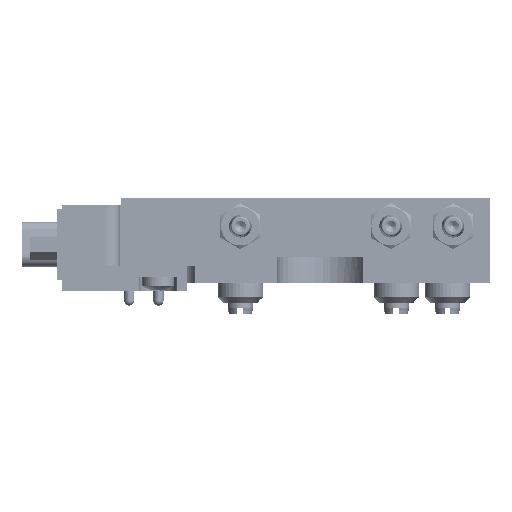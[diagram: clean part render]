
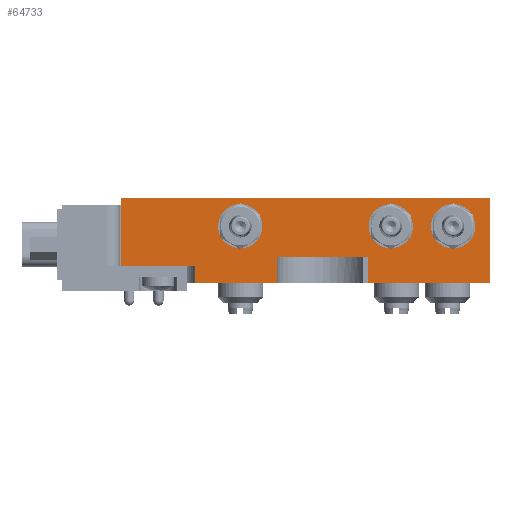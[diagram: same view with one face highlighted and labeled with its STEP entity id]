
A CAD part, left-side view. The second image highlights one B-rep face of the part: STEP entity #64733.
In plain terms, the highlighted planar face has unit normal (-1, 0, 0).
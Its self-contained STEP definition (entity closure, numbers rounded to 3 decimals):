
#119 = CARTESIAN_POINT ( 'NONE',  ( -46., -34.735, -7.1 ) ) ;
#330 = CARTESIAN_POINT ( 'NONE',  ( -46., -19.729, -15. ) ) ;
#677 = CIRCLE ( 'NONE', #29629, 2.1 ) ;
#839 = CARTESIAN_POINT ( 'NONE',  ( -46., -41.235, -15. ) ) ;
#1098 = VERTEX_POINT ( 'NONE', #63532 ) ;
#1657 = DIRECTION ( 'NONE',  ( 0., 0., 1. ) ) ;
#2719 = DIRECTION ( 'NONE',  ( 0., 1., 0. ) ) ;
#2922 = LINE ( 'NONE', #90260, #68820 ) ;
#4999 = VECTOR ( 'NONE', #2719, 1000. ) ;
#6018 = VERTEX_POINT ( 'NONE', #119 ) ;
#6062 = DIRECTION ( 'NONE',  ( 0., 0., -1. ) ) ;
#8425 = CARTESIAN_POINT ( 'NONE',  ( -46., 10.785, -12. ) ) ;
#8809 = LINE ( 'NONE', #69656, #90946 ) ;
#9114 = FACE_BOUND ( 'NONE', #94799, .T. ) ;
#9145 = DIRECTION ( 'NONE',  ( -1., 0., 0. ) ) ;
#9540 = VERTEX_POINT ( 'NONE', #8425 ) ;
#10721 = CARTESIAN_POINT ( 'NONE',  ( -46., -41.235, -10.37 ) ) ;
#11480 = DIRECTION ( 'NONE',  ( -1., 0., 0. ) ) ;
#13123 = CARTESIAN_POINT ( 'NONE',  ( -46., 2.765, -5. ) ) ;
#14007 = CARTESIAN_POINT ( 'NONE',  ( -46., -19.729, -15. ) ) ;
#16198 = EDGE_CURVE ( 'NONE', #44380, #1098, #38043, .T. ) ;
#16655 = ORIENTED_EDGE ( 'NONE', *, *, #26091, .F. ) ;
#17382 = ORIENTED_EDGE ( 'NONE', *, *, #71634, .F. ) ;
#18364 = CIRCLE ( 'NONE', #72899, 2.1 ) ;
#21140 = DIRECTION ( 'NONE',  ( 0., 0., -1. ) ) ;
#22008 = CARTESIAN_POINT ( 'NONE',  ( -46., -23.735, -5. ) ) ;
#23550 = VECTOR ( 'NONE', #88086, 1000. ) ;
#24255 = VERTEX_POINT ( 'NONE', #73832 ) ;
#24338 = DIRECTION ( 'NONE',  ( 0., 0., -1. ) ) ;
#24632 = DIRECTION ( 'NONE',  ( -1., 0., 0. ) ) ;
#25311 = CARTESIAN_POINT ( 'NONE',  ( -46., -41.235, -15. ) ) ;
#25716 = CIRCLE ( 'NONE', #51480, 2.1 ) ;
#26091 = EDGE_CURVE ( 'NONE', #56395, #72390, #67572, .T. ) ;
#27776 = EDGE_LOOP ( 'NONE', ( #98796, #52833 ) ) ;
#28301 = AXIS2_PLACEMENT_3D ( 'NONE', #39396, #95158, #47398 ) ;
#28669 = LINE ( 'NONE', #10721, #4999 ) ;
#28954 = VECTOR ( 'NONE', #52850, 1000. ) ;
#29001 = CARTESIAN_POINT ( 'NONE',  ( -46., -23.735, -7.1 ) ) ;
#29050 = LINE ( 'NONE', #25311, #66303 ) ;
#29349 = DIRECTION ( 'NONE',  ( 1., 0., 0. ) ) ;
#29629 = AXIS2_PLACEMENT_3D ( 'NONE', #13123, #68708, #21140 ) ;
#29982 = DIRECTION ( 'NONE',  ( 0., 0., -1. ) ) ;
#32232 = CARTESIAN_POINT ( 'NONE',  ( -46., 23.765, -12. ) ) ;
#32468 = ORIENTED_EDGE ( 'NONE', *, *, #80037, .F. ) ;
#33264 = LINE ( 'NONE', #330, #54332 ) ;
#33681 = ORIENTED_EDGE ( 'NONE', *, *, #61820, .F. ) ;
#34455 = CARTESIAN_POINT ( 'NONE',  ( -46., -3.729, -15. ) ) ;
#34577 = CIRCLE ( 'NONE', #84951, 2.1 ) ;
#34827 = ORIENTED_EDGE ( 'NONE', *, *, #96219, .F. ) ;
#38043 = CIRCLE ( 'NONE', #85009, 2.1 ) ;
#39073 = LINE ( 'NONE', #48998, #100114 ) ;
#39396 = CARTESIAN_POINT ( 'NONE',  ( -46., -34.735, -5. ) ) ;
#39486 = VECTOR ( 'NONE', #56388, 1000. ) ;
#39592 = VERTEX_POINT ( 'NONE', #14007 ) ;
#41779 = ORIENTED_EDGE ( 'NONE', *, *, #53711, .F. ) ;
#42175 = VERTEX_POINT ( 'NONE', #99771 ) ;
#44380 = VERTEX_POINT ( 'NONE', #61800 ) ;
#46786 = CARTESIAN_POINT ( 'NONE',  ( -46., -41.235, 0. ) ) ;
#47110 = LINE ( 'NONE', #80098, #23550 ) ;
#47309 = VERTEX_POINT ( 'NONE', #34455 ) ;
#47398 = DIRECTION ( 'NONE',  ( 0., 0., -1. ) ) ;
#48998 = CARTESIAN_POINT ( 'NONE',  ( -46., -41.235, -15. ) ) ;
#51480 = AXIS2_PLACEMENT_3D ( 'NONE', #22008, #77628, #29982 ) ;
#52833 = ORIENTED_EDGE ( 'NONE', *, *, #16198, .F. ) ;
#52850 = DIRECTION ( 'NONE',  ( 0., 0., 1. ) ) ;
#52908 = PLANE ( 'NONE',  #91812 ) ;
#53257 = ORIENTED_EDGE ( 'NONE', *, *, #70239, .T. ) ;
#53711 = EDGE_CURVE ( 'NONE', #94330, #42175, #25716, .T. ) ;
#54332 = VECTOR ( 'NONE', #24338, 1000. ) ;
#54478 = EDGE_CURVE ( 'NONE', #1098, #44380, #677, .T. ) ;
#56317 = VERTEX_POINT ( 'NONE', #46786 ) ;
#56388 = DIRECTION ( 'NONE',  ( 0., 1., 0. ) ) ;
#56395 = VERTEX_POINT ( 'NONE', #32232 ) ;
#56696 = CARTESIAN_POINT ( 'NONE',  ( -46., 2.765, -5. ) ) ;
#57342 = VERTEX_POINT ( 'NONE', #99407 ) ;
#59050 = CARTESIAN_POINT ( 'NONE',  ( -46., -34.735, -5. ) ) ;
#61800 = CARTESIAN_POINT ( 'NONE',  ( -46., 2.765, -2.9 ) ) ;
#61820 = EDGE_CURVE ( 'NONE', #6018, #101412, #74584, .T. ) ;
#63532 = CARTESIAN_POINT ( 'NONE',  ( -46., 2.765, -7.1 ) ) ;
#64554 = EDGE_CURVE ( 'NONE', #9540, #56395, #2922, .T. ) ;
#64707 = DIRECTION ( 'NONE',  ( 0., 0., -1. ) ) ;
#64733 = ADVANCED_FACE ( 'NONE', ( #91231, #88751, #9114, #67532 ), #52908, .F. ) ;
#66231 = EDGE_CURVE ( 'NONE', #9540, #92829, #8809, .T. ) ;
#66303 = VECTOR ( 'NONE', #1657, 1000. ) ;
#67062 = DIRECTION ( 'NONE',  ( 0., 0., -1. ) ) ;
#67532 = FACE_OUTER_BOUND ( 'NONE', #71494, .T. ) ;
#67572 = LINE ( 'NONE', #91917, #88795 ) ;
#67919 = EDGE_CURVE ( 'NONE', #47309, #92829, #86859, .T. ) ;
#68198 = DIRECTION ( 'NONE',  ( 0., 0., 1. ) ) ;
#68708 = DIRECTION ( 'NONE',  ( -1., 0., 0. ) ) ;
#68820 = VECTOR ( 'NONE', #98279, 1000. ) ;
#69656 = CARTESIAN_POINT ( 'NONE',  ( -46., 10.785, -12. ) ) ;
#69919 = ORIENTED_EDGE ( 'NONE', *, *, #66231, .T. ) ;
#70239 = EDGE_CURVE ( 'NONE', #47309, #83294, #92437, .T. ) ;
#71494 = EDGE_LOOP ( 'NONE', ( #76733, #69919, #103083, #53257, #17382, #72593, #32468, #82797, #73239, #16655 ) ) ;
#71634 = EDGE_CURVE ( 'NONE', #57342, #83294, #28669, .T. ) ;
#72246 = CARTESIAN_POINT ( 'NONE',  ( -46., -23.735, -5. ) ) ;
#72390 = VERTEX_POINT ( 'NONE', #94062 ) ;
#72593 = ORIENTED_EDGE ( 'NONE', *, *, #74376, .T. ) ;
#72899 = AXIS2_PLACEMENT_3D ( 'NONE', #72246, #24632, #80283 ) ;
#73112 = CARTESIAN_POINT ( 'NONE',  ( -46., 10.785, -15. ) ) ;
#73239 = ORIENTED_EDGE ( 'NONE', *, *, #84313, .T. ) ;
#73832 = CARTESIAN_POINT ( 'NONE',  ( -46., -41.235, -15. ) ) ;
#74091 = EDGE_CURVE ( 'NONE', #101412, #6018, #34577, .T. ) ;
#74376 = EDGE_CURVE ( 'NONE', #57342, #39592, #33264, .T. ) ;
#74584 = CIRCLE ( 'NONE', #28301, 2.1 ) ;
#76611 = CARTESIAN_POINT ( 'NONE',  ( -46., -3.729, -15. ) ) ;
#76733 = ORIENTED_EDGE ( 'NONE', *, *, #64554, .F. ) ;
#76996 = CARTESIAN_POINT ( 'NONE',  ( -46., -41.235, -15. ) ) ;
#77628 = DIRECTION ( 'NONE',  ( -1., 0., 0. ) ) ;
#80037 = EDGE_CURVE ( 'NONE', #24255, #39592, #39073, .T. ) ;
#80098 = CARTESIAN_POINT ( 'NONE',  ( -46., -41.235, 0. ) ) ;
#80283 = DIRECTION ( 'NONE',  ( 0., 0., -1. ) ) ;
#80666 = EDGE_CURVE ( 'NONE', #24255, #56317, #29050, .T. ) ;
#80755 = DIRECTION ( 'NONE',  ( 0., 1., 0. ) ) ;
#82797 = ORIENTED_EDGE ( 'NONE', *, *, #80666, .T. ) ;
#83294 = VERTEX_POINT ( 'NONE', #90708 ) ;
#84313 = EDGE_CURVE ( 'NONE', #56317, #72390, #47110, .T. ) ;
#84951 = AXIS2_PLACEMENT_3D ( 'NONE', #59050, #11480, #67062 ) ;
#84993 = DIRECTION ( 'NONE',  ( 0., -1., 0. ) ) ;
#85009 = AXIS2_PLACEMENT_3D ( 'NONE', #56696, #9145, #64707 ) ;
#86423 = CARTESIAN_POINT ( 'NONE',  ( -46., -34.735, -2.9 ) ) ;
#86859 = LINE ( 'NONE', #839, #39486 ) ;
#88086 = DIRECTION ( 'NONE',  ( 0., 1., 0. ) ) ;
#88751 = FACE_BOUND ( 'NONE', #27776, .T. ) ;
#88795 = VECTOR ( 'NONE', #68198, 1000. ) ;
#89598 = EDGE_LOOP ( 'NONE', ( #41779, #34827 ) ) ;
#90260 = CARTESIAN_POINT ( 'NONE',  ( -46., 23.765, -12. ) ) ;
#90708 = CARTESIAN_POINT ( 'NONE',  ( -46., -3.729, -10.37 ) ) ;
#90946 = VECTOR ( 'NONE', #6062, 1000. ) ;
#91231 = FACE_BOUND ( 'NONE', #89598, .T. ) ;
#91812 = AXIS2_PLACEMENT_3D ( 'NONE', #76996, #29349, #84993 ) ;
#91917 = CARTESIAN_POINT ( 'NONE',  ( -46., 23.765, -15. ) ) ;
#92437 = LINE ( 'NONE', #76611, #28954 ) ;
#92829 = VERTEX_POINT ( 'NONE', #73112 ) ;
#94062 = CARTESIAN_POINT ( 'NONE',  ( -46., 23.765, 0. ) ) ;
#94330 = VERTEX_POINT ( 'NONE', #29001 ) ;
#94759 = ORIENTED_EDGE ( 'NONE', *, *, #74091, .F. ) ;
#94799 = EDGE_LOOP ( 'NONE', ( #33681, #94759 ) ) ;
#95158 = DIRECTION ( 'NONE',  ( -1., 0., 0. ) ) ;
#96219 = EDGE_CURVE ( 'NONE', #42175, #94330, #18364, .T. ) ;
#98279 = DIRECTION ( 'NONE',  ( 0., 1., 0. ) ) ;
#98796 = ORIENTED_EDGE ( 'NONE', *, *, #54478, .F. ) ;
#99407 = CARTESIAN_POINT ( 'NONE',  ( -46., -19.729, -10.37 ) ) ;
#99771 = CARTESIAN_POINT ( 'NONE',  ( -46., -23.735, -2.9 ) ) ;
#100114 = VECTOR ( 'NONE', #80755, 1000. ) ;
#101412 = VERTEX_POINT ( 'NONE', #86423 ) ;
#103083 = ORIENTED_EDGE ( 'NONE', *, *, #67919, .F. ) ;
